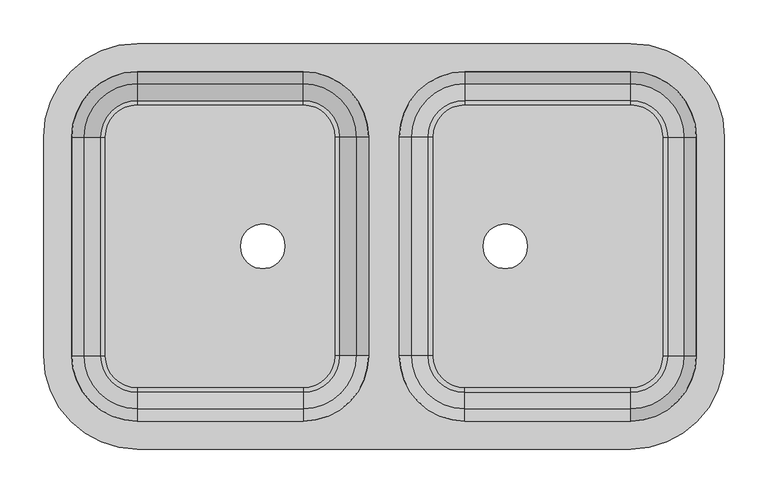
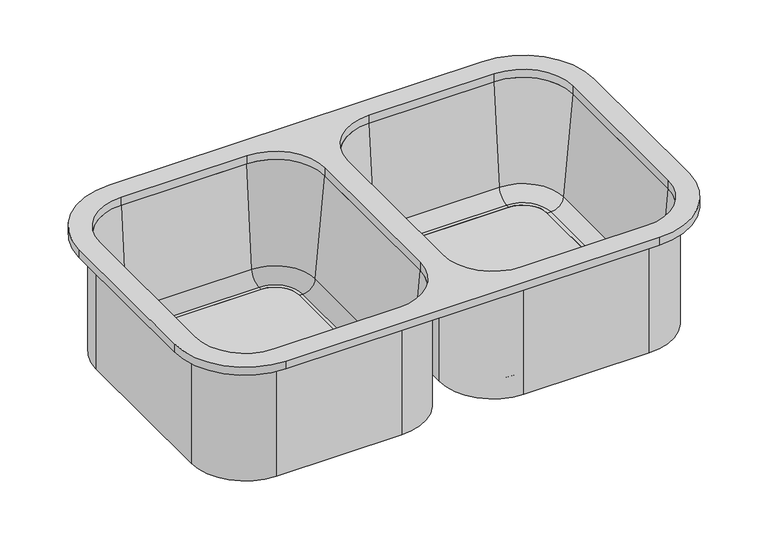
"""IFC4 building model written with IfcOpenShell, lengths in millimetres: flow terminal geometry, Tarja Teka subm BE 780 : TARJA PARA COCINA."""

from ifc_helpers import new_model, si_unit, point, frame, frame_2d, origin, place, context, project, spatial, polyline, circle_curve, ellipse_curve, trimmed, segment, composite_curve, outline, extrude, source, transform, mapped, element, save
from ifc_brep_helpers import plane_surface, cylinder_surface, revolved_surface, advanced_brep


def flow_terminal_dbe0ad42(model_context):
    return source(origin(), model_context, "Body", "SolidModel", [
        extrude(outline(composite_curve([segment(trimmed(circle_curve(frame_2d((338.6892406, 145.3454011)), 107.0), [point((338.6892406, 252.3454011))], [point((445.6892406, 145.3454011))], False, "CARTESIAN"), True, "CONTINUOUS"), segment(polyline([(445.6892406, 145.3454011), (445.6892406, -104.6545989)]), True, "CONTINUOUS"), segment(trimmed(circle_curve(frame_2d((338.6892406, -104.6545989)), 107.0), [point((445.6892406, -104.6545989))], [point((338.6892406, -211.6545989))], False, "CARTESIAN"), True, "CONTINUOUS"), segment(polyline([(338.6892406, -211.6545989), (-226.3107594, -211.6545989)]), True, "CONTINUOUS"), segment(trimmed(circle_curve(frame_2d((-226.3107594, -104.6545989)), 107.0), [point((-226.3107594, -211.6545989))], [point((-333.3107594, -104.6545989))], False, "CARTESIAN"), True, "CONTINUOUS"), segment(polyline([(-333.3107594, -104.6545989), (-333.3107594, 145.3454011)]), True, "CONTINUOUS"), segment(trimmed(circle_curve(frame_2d((-226.3107594, 145.3454011)), 107.0), [point((-333.3107594, 145.3454011))], [point((-226.3107594, 252.3454011))], False, "CARTESIAN"), True, "CONTINUOUS"), segment(polyline([(-226.3107594, 252.3454011), (338.6892406, 252.3454011)]), True, "CONTINUOUS")], self_intersect=False), holes=[composite_curve([segment(polyline([(338.6892406, 220.3454011), (148.6892406, 220.3454011)]), True, "CONTINUOUS"), segment(trimmed(circle_curve(frame_2d((148.6892406, 145.3454011)), 75.0), [point((148.6892406, 220.3454011))], [point((73.6892406, 145.3454011))], True, "CARTESIAN"), True, "CONTINUOUS"), segment(polyline([(73.6892406, 145.3454011), (73.6892406, -104.6545989)]), True, "CONTINUOUS"), segment(trimmed(circle_curve(frame_2d((148.6892406, -104.6545989)), 75.0), [point((73.6892406, -104.6545989))], [point((148.6892406, -179.6545989))], True, "CARTESIAN"), True, "CONTINUOUS"), segment(polyline([(148.6892406, -179.6545989), (338.6892406, -179.6545989)]), True, "CONTINUOUS"), segment(trimmed(circle_curve(frame_2d((338.6892406, -104.6545989)), 75.0), [point((338.6892406, -179.6545989))], [point((413.6892406, -104.6545989))], True, "CARTESIAN"), True, "CONTINUOUS"), segment(polyline([(413.6892406, -104.6545989), (413.6892406, 145.3454011)]), True, "CONTINUOUS"), segment(trimmed(circle_curve(frame_2d((338.6892406, 145.3454011)), 75.0), [point((413.6892406, 145.3454011))], [point((338.6892406, 220.3454011))], True, "CARTESIAN"), True, "CONTINUOUS")], self_intersect=False), composite_curve([segment(trimmed(circle_curve(frame_2d((-226.3107594, 145.3454011)), 75.0), [point((-226.3107594, 220.3454011))], [point((-301.3107594, 145.3454011))], True, "CARTESIAN"), True, "CONTINUOUS"), segment(polyline([(-301.3107594, 145.3454011), (-301.3107594, -104.6545989)]), True, "CONTINUOUS"), segment(trimmed(circle_curve(frame_2d((-226.3107594, -104.6545989)), 75.0), [point((-301.3107594, -104.6545989))], [point((-226.3107594, -179.6545989))], True, "CARTESIAN"), True, "CONTINUOUS"), segment(polyline([(-226.3107594, -179.6545989), (-36.3107594, -179.6545989)]), True, "CONTINUOUS"), segment(trimmed(circle_curve(frame_2d((-36.3107594, -104.6545989)), 75.0), [point((-36.3107594, -179.6545989))], [point((38.6892406, -104.6545989))], True, "CARTESIAN"), True, "CONTINUOUS"), segment(polyline([(38.6892406, -104.6545989), (38.6892406, 145.3454011)]), True, "CONTINUOUS"), segment(trimmed(circle_curve(frame_2d((-36.3107594, 145.3454011)), 75.0), [point((38.6892406, 145.3454011))], [point((-36.3107594, 220.3454011))], True, "CARTESIAN"), True, "CONTINUOUS"), segment(polyline([(-36.3107594, 220.3454011), (-226.3107594, 220.3454011)]), True, "CONTINUOUS")], self_intersect=False)]), frame((0.0, 0.0, 914.4), z_axis=(0.0, 0.0, 1.0), x_axis=(1.0, 0.0, 0.0)), (0.0, 0.0, 1.0), 12.7),
        advanced_brep(
        [(-301.3107594, 145.3454011, 914.4), (-226.3107594, 220.3454011, 914.4), (-226.3107594, 226.6954011, 914.4), (-307.6607594, 145.3454011, 914.4), (-287.2788624, 145.3454011, 754.0146831), (-226.3107594, 206.3135041, 754.0146831), (-268.3013534, 145.3454011, 736.625), (-226.3107594, 187.3359951, 736.625), (-263.2107594, 145.3454011, 736.625), (-226.3107594, 182.2454011, 736.625), (-263.2107594, 145.3454011, 727.1), (-226.3107594, 182.2454011, 727.1), (-307.6607594, 145.3454011, 727.1), (-226.3107594, 226.6954011, 727.1), (-307.6607594, -104.6545989, 914.4), (-301.3107594, -104.6545989, 914.4), (-287.2788624, -104.6545989, 754.0146831), (-268.3013534, -104.6545989, 736.625), (-263.2107594, -104.6545989, 736.625), (-263.2107594, -104.6545989, 727.1), (-307.6607594, -104.6545989, 727.1), (-226.3107594, -179.6545989, 914.4), (-226.3107594, -186.0045989, 914.4), (-226.3107594, -165.6227019, 754.0146831), (-226.3107594, -146.6451929, 736.625), (-226.3107594, -141.5545989, 736.625), (-226.3107594, -141.5545989, 727.1), (-226.3107594, -186.0045989, 727.1), (-36.3107594, -186.0045989, 914.4), (-36.3107594, -179.6545989, 914.4), (-36.3107594, -165.6227019, 754.0146831), (-36.3107594, -146.6451929, 736.625), (-36.3107594, -141.5545989, 736.625), (-36.3107594, -141.5545989, 727.1), (-36.3107594, -186.0045989, 727.1), (38.6892406, -104.6545989, 914.4), (45.0392406, -104.6545989, 914.4), (24.6573435, -104.6545989, 754.0146831), (5.6798345, -104.6545989, 736.625), (0.5892406, -104.6545989, 736.625), (0.5892406, -104.6545989, 727.1), (45.0392406, -104.6545989, 727.1), (45.0392406, 145.3454011, 914.4), (38.6892406, 145.3454011, 914.4), (24.6573435, 145.3454011, 754.0146831), (5.6798345, 145.3454011, 736.625), (0.5892406, 145.3454011, 736.625), (0.5892406, 145.3454011, 727.1), (45.0392406, 145.3454011, 727.1), (-36.3107594, 220.3454011, 914.4), (-36.3107594, 226.6954011, 914.4), (-36.3107594, 206.3135041, 754.0146831), (-36.3107594, 187.3359951, 736.625), (-36.3107594, 182.2454011, 736.625), (-36.3107594, 182.2454011, 727.1), (-36.3107594, 226.6954011, 727.1)],
        [
            (0, 1, circle_curve(frame((-226.3107594, 145.3454011, 914.4), z_axis=(0.0, 0.0, -1.0), x_axis=(0.0, 1.0, 0.0)), 75.0)),
            (1, 2),
            (2, 3, circle_curve(frame((-226.3107594, 145.3454011, 914.4), z_axis=(0.0, 0.0, 1.0), x_axis=(0.0, 1.0, 0.0)), 81.35)),
            (3, 0),
            (4, 5, circle_curve(frame((-226.3107594, 145.3454011, 754.0146831), z_axis=(0.0, 0.0, -1.0), x_axis=(0.0, 1.0, 0.0)), 60.968103)),
            (5, 1),
            (0, 4),
            (6, 7, circle_curve(frame((-226.3107594, 145.3454011, 736.625), z_axis=(0.0, 0.0, -1.0), x_axis=(0.0, 1.0, 0.0)), 41.990594)),
            (7, 5, circle_curve(frame((-226.3107594, 187.3359951, 755.675), z_axis=(1.0, 0.0, 0.0), x_axis=(0.0, -1.0, 0.0)), 19.05)),
            (4, 6, circle_curve(frame((-268.3013534, 145.3454011, 755.675), z_axis=(0.0, -1.0, 0.0), x_axis=(1.0, 0.0, 0.0)), 19.05)),
            (8, 9, circle_curve(frame((-226.3107594, 145.3454011, 736.625), z_axis=(0.0, 0.0, -1.0), x_axis=(0.0, 1.0, 0.0)), 36.9)),
            (9, 7),
            (6, 8),
            (10, 11, circle_curve(frame((-226.3107594, 145.3454011, 727.1), z_axis=(0.0, 0.0, -1.0), x_axis=(0.0, 1.0, 0.0)), 36.9)),
            (11, 9),
            (8, 10),
            (12, 13, circle_curve(frame((-226.3107594, 145.3454011, 727.1), z_axis=(0.0, 0.0, -1.0), x_axis=(0.0, 1.0, 0.0)), 81.35)),
            (13, 11),
            (10, 12),
            (2, 13),
            (12, 3),
            (3, 14),
            (14, 15),
            (15, 0),
            (15, 16),
            (16, 4),
            (16, 17, circle_curve(frame((-268.3013534, -104.6545989, 755.675), z_axis=(0.0, -1.0, 0.0), x_axis=(1.0, 0.0, 0.0)), 19.05)),
            (17, 6),
            (17, 18),
            (18, 8),
            (18, 19),
            (19, 10),
            (19, 20),
            (20, 12),
            (20, 14),
            (21, 15, circle_curve(frame((-226.3107594, -104.6545989, 914.4), z_axis=(0.0, 0.0, -1.0), x_axis=(-1.0, 0.0, 0.0)), 75.0)),
            (14, 22, circle_curve(frame((-226.3107594, -104.6545989, 914.4), z_axis=(0.0, 0.0, 1.0), x_axis=(-1.0, 0.0, 0.0)), 81.35)),
            (22, 21),
            (23, 16, circle_curve(frame((-226.3107594, -104.6545989, 754.0146831), z_axis=(0.0, 0.0, -1.0), x_axis=(-1.0, 0.0, 0.0)), 60.968103)),
            (21, 23),
            (24, 17, circle_curve(frame((-226.3107594, -104.6545989, 736.625), z_axis=(0.0, 0.0, -1.0), x_axis=(-1.0, 0.0, 0.0)), 41.990594)),
            (23, 24, circle_curve(frame((-226.3107594, -146.6451929, 755.675), z_axis=(1.0, 0.0, 0.0), x_axis=(0.0, 1.0, 0.0)), 19.05)),
            (25, 18, circle_curve(frame((-226.3107594, -104.6545989, 736.625), z_axis=(0.0, 0.0, -1.0), x_axis=(-1.0, 0.0, 0.0)), 36.9)),
            (24, 25),
            (26, 19, circle_curve(frame((-226.3107594, -104.6545989, 727.1), z_axis=(0.0, 0.0, -1.0), x_axis=(-1.0, 0.0, 0.0)), 36.9)),
            (25, 26),
            (27, 20, circle_curve(frame((-226.3107594, -104.6545989, 727.1), z_axis=(0.0, 0.0, -1.0), x_axis=(-1.0, 0.0, 0.0)), 81.35)),
            (26, 27),
            (27, 22),
            (22, 28),
            (28, 29),
            (29, 21),
            (29, 30),
            (30, 23),
            (30, 31, circle_curve(frame((-36.3107594, -146.6451929, 755.675), z_axis=(1.0, 0.0, 0.0), x_axis=(0.0, 1.0, 0.0)), 19.05)),
            (31, 24),
            (31, 32),
            (32, 25),
            (32, 33),
            (33, 26),
            (33, 34),
            (34, 27),
            (34, 28),
            (35, 29, circle_curve(frame((-36.3107594, -104.6545989, 914.4), z_axis=(0.0, 0.0, -1.0), x_axis=(0.0, -1.0, 0.0)), 75.0)),
            (28, 36, circle_curve(frame((-36.3107594, -104.6545989, 914.4), z_axis=(0.0, 0.0, 1.0), x_axis=(0.0, -1.0, 0.0)), 81.35)),
            (36, 35),
            (37, 30, circle_curve(frame((-36.3107594, -104.6545989, 754.0146831), z_axis=(0.0, 0.0, -1.0), x_axis=(0.0, -1.0, 0.0)), 60.968103)),
            (35, 37),
            (38, 31, circle_curve(frame((-36.3107594, -104.6545989, 736.625), z_axis=(0.0, 0.0, -1.0), x_axis=(0.0, -1.0, 0.0)), 41.990594)),
            (37, 38, circle_curve(frame((5.6798345, -104.6545989, 755.675), z_axis=(0.0, 1.0, 0.0), x_axis=(-1.0, 0.0, 0.0)), 19.05)),
            (39, 32, circle_curve(frame((-36.3107594, -104.6545989, 736.625), z_axis=(0.0, 0.0, -1.0), x_axis=(0.0, -1.0, 0.0)), 36.9)),
            (38, 39),
            (40, 33, circle_curve(frame((-36.3107594, -104.6545989, 727.1), z_axis=(0.0, 0.0, -1.0), x_axis=(0.0, -1.0, 0.0)), 36.9)),
            (39, 40),
            (41, 34, circle_curve(frame((-36.3107594, -104.6545989, 727.1), z_axis=(0.0, 0.0, -1.0), x_axis=(0.0, -1.0, 0.0)), 81.35)),
            (40, 41),
            (41, 36),
            (36, 42),
            (42, 43),
            (43, 35),
            (43, 44),
            (44, 37),
            (44, 45, circle_curve(frame((5.6798345, 145.3454011, 755.675), z_axis=(0.0, 1.0, 0.0), x_axis=(-1.0, 0.0, 0.0)), 19.05)),
            (45, 38),
            (45, 46),
            (46, 39),
            (46, 47),
            (47, 40),
            (47, 48),
            (48, 41),
            (48, 42),
            (49, 43, circle_curve(frame((-36.3107594, 145.3454011, 914.4), z_axis=(0.0, 0.0, -1.0), x_axis=(1.0, 0.0, 0.0)), 75.0)),
            (42, 50, circle_curve(frame((-36.3107594, 145.3454011, 914.4), z_axis=(0.0, 0.0, 1.0), x_axis=(1.0, 0.0, 0.0)), 81.35)),
            (50, 49),
            (51, 44, circle_curve(frame((-36.3107594, 145.3454011, 754.0146831), z_axis=(0.0, 0.0, -1.0), x_axis=(1.0, 0.0, 0.0)), 60.968103)),
            (49, 51),
            (52, 45, circle_curve(frame((-36.3107594, 145.3454011, 736.625), z_axis=(0.0, 0.0, -1.0), x_axis=(1.0, 0.0, 0.0)), 41.990594)),
            (51, 52, circle_curve(frame((-36.3107594, 187.3359951, 755.675), z_axis=(-1.0, 0.0, 0.0), x_axis=(0.0, -1.0, 0.0)), 19.05)),
            (53, 46, circle_curve(frame((-36.3107594, 145.3454011, 736.625), z_axis=(0.0, 0.0, -1.0), x_axis=(1.0, 0.0, 0.0)), 36.9)),
            (52, 53),
            (54, 47, circle_curve(frame((-36.3107594, 145.3454011, 727.1), z_axis=(0.0, 0.0, -1.0), x_axis=(1.0, 0.0, 0.0)), 36.9)),
            (53, 54),
            (55, 48, circle_curve(frame((-36.3107594, 145.3454011, 727.1), z_axis=(0.0, 0.0, -1.0), x_axis=(1.0, 0.0, 0.0)), 81.35)),
            (54, 55),
            (55, 50),
            (50, 2),
            (1, 49),
            (5, 51),
            (7, 52),
            (9, 53),
            (11, 54),
            (13, 55),
        ],
        [
            plane_surface(frame((-226.3107594, 145.3454011, 914.4), z_axis=(0.0, 0.0, 1.0), x_axis=(0.0, 1.0, 0.0))),
            revolved_surface(polyline([(-226.3107594, 220.3454011, 914.4), (-226.3107594, 206.3135041, 754.0146831)]), (-226.3107594, 145.3454011, 0.0), (0.0, 0.0, 1.0)),
            revolved_surface(trimmed(ellipse_curve(frame((-226.3107594, 187.3359951, 755.675), z_axis=(-1.0, 0.0, 0.0), x_axis=(0.0, -1.0, 0.0)), 19.05, 19.05), [point((-226.3107594, 206.3135041, 754.0146831))], [point((-226.3107594, 187.3359951, 736.625))], True, "CARTESIAN"), (-226.3107594, 145.3454011, 0.0), (0.0, 0.0, 1.0)),
            plane_surface(frame((-226.3107594, 145.3454011, 736.625), z_axis=(0.0, 0.0, 1.0), x_axis=(0.0, 1.0, 0.0))),
            revolved_surface(polyline([(-226.3107594, 182.2454011, 736.625), (-226.3107594, 182.2454011, 727.1)]), (-226.3107594, 145.3454011, 0.0), (0.0, 0.0, 1.0)),
            plane_surface(frame((-226.3107594, 145.3454011, 727.1), z_axis=(0.0, 0.0, -1.0), x_axis=(0.0, 1.0, 0.0))),
            cylinder_surface(frame((-226.3107594, 145.3454011, 0.0), z_axis=(0.0, 0.0, 1.0), x_axis=(0.0, 1.0, 0.0)), 81.35),
            plane_surface(frame((-307.6607594, 145.3454011, 914.4), z_axis=(0.0, 0.0, 1.0), x_axis=(0.0, -1.0, 0.0))),
            plane_surface(frame((-301.3107594, 145.3454011, 914.4), z_axis=(0.996194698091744, 0.0, 0.08715574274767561), x_axis=(0.0, -1.0, 0.0))),
            revolved_surface(polyline([(-249.25135339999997, -104.6545989, 755.675), (-249.25135339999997, 145.3454011, 755.675)]), (-268.3013534, 145.3454011, 755.675), (0.0, -1.0, 0.0)),
            plane_surface(frame((-268.3013534, 145.3454011, 736.625), z_axis=(0.0, 0.0, 1.0), x_axis=(0.0, -1.0, 0.0))),
            plane_surface(frame((-263.2107594, 145.3454011, 736.625), z_axis=(1.0, 0.0, 0.0), x_axis=(0.0, -1.0, 0.0))),
            plane_surface(frame((-263.2107594, 145.3454011, 727.1), z_axis=(0.0, 0.0, -1.0), x_axis=(0.0, -1.0, 0.0))),
            plane_surface(frame((-307.6607594, 145.3454011, 727.1), z_axis=(-1.0, 0.0, 0.0), x_axis=(0.0, -1.0, 0.0))),
            plane_surface(frame((-226.3107594, -104.6545989, 914.4), z_axis=(0.0, 0.0, 1.0), x_axis=(-1.0, 0.0, 0.0))),
            revolved_surface(polyline([(-301.3107594, -104.6545989, 914.4), (-287.2788624, -104.6545989, 754.0146831)]), (-226.3107594, -104.6545989, 0.0), (0.0, 0.0, 1.0)),
            revolved_surface(trimmed(ellipse_curve(frame((-268.3013534, -104.6545989, 755.675), z_axis=(0.0, -1.0, 0.0), x_axis=(1.0, 0.0, 0.0)), 19.05, 19.05), [point((-287.2788624, -104.6545989, 754.0146831))], [point((-268.3013534, -104.6545989, 736.625))], True, "CARTESIAN"), (-226.3107594, -104.6545989, 0.0), (0.0, 0.0, 1.0)),
            plane_surface(frame((-226.3107594, -104.6545989, 736.625), z_axis=(0.0, 0.0, 1.0), x_axis=(-1.0, 0.0, 0.0))),
            revolved_surface(polyline([(-263.2107594, -104.6545989, 736.625), (-263.2107594, -104.6545989, 727.1)]), (-226.3107594, -104.6545989, 0.0), (0.0, 0.0, 1.0)),
            plane_surface(frame((-226.3107594, -104.6545989, 727.1), z_axis=(0.0, 0.0, -1.0), x_axis=(-1.0, 0.0, 0.0))),
            cylinder_surface(frame((-226.3107594, -104.6545989, 0.0), z_axis=(0.0, 0.0, 1.0), x_axis=(-1.0, 0.0, 0.0)), 81.35),
            plane_surface(frame((-226.3107594, -186.0045989, 914.4), z_axis=(0.0, 0.0, 1.0), x_axis=(1.0, 0.0, 0.0))),
            plane_surface(frame((-226.3107594, -179.6545989, 914.4), z_axis=(0.0, 0.996194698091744, 0.08715574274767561), x_axis=(1.0, 0.0, 0.0))),
            revolved_surface(polyline([(-36.310759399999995, -127.59519290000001, 755.675), (-226.3107594, -127.59519290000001, 755.675)]), (-226.3107594, -146.6451929, 755.675), (1.0, 0.0, 0.0)),
            plane_surface(frame((-226.3107594, -146.6451929, 736.625), z_axis=(0.0, 0.0, 1.0), x_axis=(1.0, 0.0, 0.0))),
            plane_surface(frame((-226.3107594, -141.5545989, 736.625), z_axis=(0.0, 1.0, 0.0), x_axis=(1.0, 0.0, 0.0))),
            plane_surface(frame((-226.3107594, -141.5545989, 727.1), z_axis=(0.0, 0.0, -1.0), x_axis=(1.0, 0.0, 0.0))),
            plane_surface(frame((-226.3107594, -186.0045989, 727.1), z_axis=(0.0, -1.0, 0.0), x_axis=(1.0, 0.0, 0.0))),
            plane_surface(frame((-36.3107594, -104.6545989, 914.4), z_axis=(0.0, 0.0, 1.0), x_axis=(0.0, -1.0, 0.0))),
            revolved_surface(polyline([(-36.3107594, -179.6545989, 914.4), (-36.3107594, -165.6227019, 754.0146831)]), (-36.3107594, -104.6545989, 0.0), (0.0, 0.0, 1.0)),
            revolved_surface(trimmed(ellipse_curve(frame((-36.3107594, -146.6451929, 755.675), z_axis=(1.0, 0.0, 0.0), x_axis=(0.0, 1.0, 0.0)), 19.05, 19.05), [point((-36.3107594, -165.6227019, 754.0146831))], [point((-36.3107594, -146.6451929, 736.625))], True, "CARTESIAN"), (-36.3107594, -104.6545989, 0.0), (0.0, 0.0, 1.0)),
            plane_surface(frame((-36.3107594, -104.6545989, 736.625), z_axis=(0.0, 0.0, 1.0), x_axis=(0.0, -1.0, 0.0))),
            revolved_surface(polyline([(-36.3107594, -141.5545989, 736.625), (-36.3107594, -141.5545989, 727.1)]), (-36.3107594, -104.6545989, 0.0), (0.0, 0.0, 1.0)),
            plane_surface(frame((-36.3107594, -104.6545989, 727.1), z_axis=(0.0, 0.0, -1.0), x_axis=(0.0, -1.0, 0.0))),
            cylinder_surface(frame((-36.3107594, -104.6545989, 0.0), z_axis=(0.0, 0.0, 1.0), x_axis=(0.0, -1.0, 0.0)), 81.35),
            plane_surface(frame((45.0392406, -104.6545989, 914.4), z_axis=(0.0, 0.0, 1.0), x_axis=(0.0, 1.0, 0.0))),
            plane_surface(frame((38.6892406, -104.6545989, 914.4), z_axis=(-0.996194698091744, 0.0, 0.08715574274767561), x_axis=(0.0, 1.0, 0.0))),
            revolved_surface(polyline([(-13.3701655, 145.3454011, 755.675), (-13.3701655, -104.6545989, 755.675)]), (5.6798345, -104.6545989, 755.675), (0.0, 1.0, 0.0)),
            plane_surface(frame((5.6798345, -104.6545989, 736.625), z_axis=(0.0, 0.0, 1.0), x_axis=(0.0, 1.0, 0.0))),
            plane_surface(frame((0.5892406, -104.6545989, 736.625), z_axis=(-1.0, 0.0, 0.0), x_axis=(0.0, 1.0, 0.0))),
            plane_surface(frame((0.5892406, -104.6545989, 727.1), z_axis=(0.0, 0.0, -1.0), x_axis=(0.0, 1.0, 0.0))),
            plane_surface(frame((45.0392406, -104.6545989, 727.1), z_axis=(1.0, 0.0, 0.0), x_axis=(0.0, 1.0, 0.0))),
            plane_surface(frame((-36.3107594, 145.3454011, 914.4), z_axis=(0.0, 0.0, 1.0), x_axis=(1.0, 0.0, 0.0))),
            revolved_surface(polyline([(38.6892406, 145.3454011, 914.4), (24.6573435, 145.3454011, 754.0146831)]), (-36.3107594, 145.3454011, 0.0), (0.0, 0.0, 1.0)),
            revolved_surface(trimmed(ellipse_curve(frame((5.6798345, 145.3454011, 755.675), z_axis=(0.0, 1.0, 0.0), x_axis=(-1.0, 0.0, 0.0)), 19.05, 19.05), [point((24.6573435, 145.3454011, 754.0146831))], [point((5.6798345, 145.3454011, 736.625))], True, "CARTESIAN"), (-36.3107594, 145.3454011, 0.0), (0.0, 0.0, 1.0)),
            plane_surface(frame((-36.3107594, 145.3454011, 736.625), z_axis=(0.0, 0.0, 1.0), x_axis=(1.0, 0.0, 0.0))),
            revolved_surface(polyline([(0.5892405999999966, 145.3454011, 736.625), (0.5892405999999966, 145.3454011, 727.1)]), (-36.3107594, 145.3454011, 0.0), (0.0, 0.0, 1.0)),
            plane_surface(frame((-36.3107594, 145.3454011, 727.1), z_axis=(0.0, 0.0, -1.0), x_axis=(1.0, 0.0, 0.0))),
            cylinder_surface(frame((-36.3107594, 145.3454011, 0.0), z_axis=(0.0, 0.0, 1.0), x_axis=(1.0, 0.0, 0.0)), 81.35),
            plane_surface(frame((-36.3107594, 226.6954011, 914.4), z_axis=(0.0, 0.0, 1.0), x_axis=(-1.0, 0.0, 0.0))),
            plane_surface(frame((-36.3107594, 220.3454011, 914.4), z_axis=(0.0, -0.996194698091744, 0.08715574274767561), x_axis=(-1.0, 0.0, 0.0))),
            revolved_surface(polyline([(-226.3107594, 168.28599509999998, 755.675), (-36.3107594, 168.28599509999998, 755.675)]), (-36.3107594, 187.3359951, 755.675), (-1.0, 0.0, 0.0)),
            plane_surface(frame((-36.3107594, 187.3359951, 736.625), z_axis=(0.0, 0.0, 1.0), x_axis=(-1.0, 0.0, 0.0))),
            plane_surface(frame((-36.3107594, 182.2454011, 736.625), z_axis=(0.0, -1.0, 0.0), x_axis=(-1.0, 0.0, 0.0))),
            plane_surface(frame((-36.3107594, 182.2454011, 727.1), z_axis=(0.0, 0.0, -1.0), x_axis=(-1.0, 0.0, 0.0))),
            plane_surface(frame((-36.3107594, 226.6954011, 727.1), z_axis=(0.0, 1.0, 0.0), x_axis=(-1.0, 0.0, 0.0))),
        ],
        [
            (0, [[1, 2, 3, 4]]),
            (1, [[5, 6, -1, 7]]),
            (2, [[8, 9, -5, 10]]),
            (3, [[11, 12, -8, 13]]),
            (4, [[14, 15, -11, 16]]),
            (5, [[17, 18, -14, 19]]),
            (6, [[-3, 20, -17, 21]]),
            (7, [[-4, 22, 23, 24]]),
            (8, [[-7, -24, 25, 26]]),
            (9, [[-10, -26, 27, 28]]),
            (10, [[-13, -28, 29, 30]]),
            (11, [[-16, -30, 31, 32]]),
            (12, [[-19, -32, 33, 34]]),
            (13, [[-21, -34, 35, -22]]),
            (14, [[36, -23, 37, 38]]),
            (15, [[39, -25, -36, 40]]),
            (16, [[41, -27, -39, 42]]),
            (17, [[43, -29, -41, 44]]),
            (18, [[45, -31, -43, 46]]),
            (19, [[47, -33, -45, 48]]),
            (20, [[-37, -35, -47, 49]]),
            (21, [[-38, 50, 51, 52]]),
            (22, [[-40, -52, 53, 54]]),
            (23, [[-42, -54, 55, 56]]),
            (24, [[-44, -56, 57, 58]]),
            (25, [[-46, -58, 59, 60]]),
            (26, [[-48, -60, 61, 62]]),
            (27, [[-49, -62, 63, -50]]),
            (28, [[64, -51, 65, 66]]),
            (29, [[67, -53, -64, 68]]),
            (30, [[69, -55, -67, 70]]),
            (31, [[71, -57, -69, 72]]),
            (32, [[73, -59, -71, 74]]),
            (33, [[75, -61, -73, 76]]),
            (34, [[-65, -63, -75, 77]]),
            (35, [[-66, 78, 79, 80]]),
            (36, [[-68, -80, 81, 82]]),
            (37, [[-70, -82, 83, 84]]),
            (38, [[-72, -84, 85, 86]]),
            (39, [[-74, -86, 87, 88]]),
            (40, [[-76, -88, 89, 90]]),
            (41, [[-77, -90, 91, -78]]),
            (42, [[92, -79, 93, 94]]),
            (43, [[95, -81, -92, 96]]),
            (44, [[97, -83, -95, 98]]),
            (45, [[99, -85, -97, 100]]),
            (46, [[101, -87, -99, 102]]),
            (47, [[103, -89, -101, 104]]),
            (48, [[-93, -91, -103, 105]]),
            (49, [[-94, 106, -2, 107]]),
            (50, [[-96, -107, -6, 108]]),
            (51, [[-98, -108, -9, 109]]),
            (52, [[-100, -109, -12, 110]]),
            (53, [[-102, -110, -15, 111]]),
            (54, [[-104, -111, -18, 112]]),
            (55, [[-105, -112, -20, -106]]),
        ],
    ),
        advanced_brep(
        [(420.0392406, 145.3454011, 727.1), (338.6892406, 226.6954011, 727.1), (338.6892406, 226.6954011, 914.4), (420.0392406, 145.3454011, 914.4), (375.5892406, 145.3454011, 727.1), (338.6892406, 182.2454011, 727.1), (375.5892406, 145.3454011, 736.625), (338.6892406, 182.2454011, 736.625), (380.6798345, 145.3454011, 736.625), (338.6892406, 187.3359951, 736.625), (399.6573435, 145.3454011, 754.0146831), (338.6892406, 206.3135041, 754.0146831), (413.6892406, 145.3454011, 914.4), (338.6892406, 220.3454011, 914.4), (420.0392406, -104.6545989, 914.4), (420.0392406, -104.6545989, 727.1), (375.5892406, -104.6545989, 727.1), (375.5892406, -104.6545989, 736.625), (380.6798345, -104.6545989, 736.625), (399.6573435, -104.6545989, 754.0146831), (413.6892406, -104.6545989, 914.4), (338.6892406, -186.0045989, 727.1), (338.6892406, -186.0045989, 914.4), (338.6892406, -141.5545989, 727.1), (338.6892406, -141.5545989, 736.625), (338.6892406, -146.6451929, 736.625), (338.6892406, -165.6227019, 754.0146831), (338.6892406, -179.6545989, 914.4), (148.6892406, -186.0045989, 914.4), (148.6892406, -186.0045989, 727.1), (148.6892406, -141.5545989, 727.1), (148.6892406, -141.5545989, 736.625), (148.6892406, -146.6451929, 736.625), (148.6892406, -165.6227019, 754.0146831), (148.6892406, -179.6545989, 914.4), (67.3392406, -104.6545989, 727.1), (67.3392406, -104.6545989, 914.4), (111.7892406, -104.6545989, 727.1), (111.7892406, -104.6545989, 736.625), (106.6986466, -104.6545989, 736.625), (87.7211376, -104.6545989, 754.0146831), (73.6892406, -104.6545989, 914.4), (67.3392406, 145.3454011, 914.4), (67.3392406, 145.3454011, 727.1), (111.7892406, 145.3454011, 727.1), (111.7892406, 145.3454011, 736.625), (106.6986466, 145.3454011, 736.625), (87.7211376, 145.3454011, 754.0146831), (73.6892406, 145.3454011, 914.4), (148.6892406, 226.6954011, 727.1), (148.6892406, 226.6954011, 914.4), (148.6892406, 182.2454011, 727.1), (148.6892406, 182.2454011, 736.625), (148.6892406, 187.3359951, 736.625), (148.6892406, 206.3135041, 754.0146831), (148.6892406, 220.3454011, 914.4)],
        [
            (0, 1, circle_curve(frame((338.6892406, 145.3454011, 727.1), z_axis=(0.0, 0.0, 1.0), x_axis=(0.0, 1.0, 0.0)), 81.35)),
            (1, 2),
            (2, 3, circle_curve(frame((338.6892406, 145.3454011, 914.4), z_axis=(0.0, 0.0, -1.0), x_axis=(0.0, 1.0, 0.0)), 81.35)),
            (3, 0),
            (4, 5, circle_curve(frame((338.6892406, 145.3454011, 727.1), z_axis=(0.0, 0.0, 1.0), x_axis=(0.0, 1.0, 0.0)), 36.9)),
            (5, 1),
            (0, 4),
            (6, 7, circle_curve(frame((338.6892406, 145.3454011, 736.625), z_axis=(0.0, 0.0, 1.0), x_axis=(0.0, 1.0, 0.0)), 36.9)),
            (7, 5),
            (4, 6),
            (8, 9, circle_curve(frame((338.6892406, 145.3454011, 736.625), z_axis=(0.0, 0.0, 1.0), x_axis=(0.0, 1.0, 0.0)), 41.990594)),
            (9, 7),
            (6, 8),
            (10, 11, circle_curve(frame((338.6892406, 145.3454011, 754.0146831), z_axis=(0.0, 0.0, 1.0), x_axis=(0.0, 1.0, 0.0)), 60.968103)),
            (11, 9, circle_curve(frame((338.6892406, 187.3359951, 755.675), z_axis=(-1.0, 0.0, 0.0), x_axis=(0.0, 1.0, 0.0)), 19.05)),
            (8, 10, circle_curve(frame((380.6798345, 145.3454011, 755.675), z_axis=(0.0, -1.0, 0.0), x_axis=(1.0, 0.0, 0.0)), 19.05)),
            (12, 13, circle_curve(frame((338.6892406, 145.3454011, 914.4), z_axis=(0.0, 0.0, 1.0), x_axis=(0.0, 1.0, 0.0)), 75.0)),
            (13, 11),
            (10, 12),
            (2, 13),
            (12, 3),
            (3, 14),
            (14, 15),
            (15, 0),
            (15, 16),
            (16, 4),
            (16, 17),
            (17, 6),
            (17, 18),
            (18, 8),
            (18, 19, circle_curve(frame((380.6798345, -104.6545989, 755.675), z_axis=(0.0, -1.0, 0.0), x_axis=(1.0, 0.0, 0.0)), 19.05)),
            (19, 10),
            (19, 20),
            (20, 12),
            (20, 14),
            (21, 15, circle_curve(frame((338.6892406, -104.6545989, 727.1), z_axis=(0.0, 0.0, 1.0), x_axis=(1.0, 0.0, 0.0)), 81.35)),
            (14, 22, circle_curve(frame((338.6892406, -104.6545989, 914.4), z_axis=(0.0, 0.0, -1.0), x_axis=(1.0, 0.0, 0.0)), 81.35)),
            (22, 21),
            (23, 16, circle_curve(frame((338.6892406, -104.6545989, 727.1), z_axis=(0.0, 0.0, 1.0), x_axis=(1.0, 0.0, 0.0)), 36.9)),
            (21, 23),
            (24, 17, circle_curve(frame((338.6892406, -104.6545989, 736.625), z_axis=(0.0, 0.0, 1.0), x_axis=(1.0, 0.0, 0.0)), 36.9)),
            (23, 24),
            (25, 18, circle_curve(frame((338.6892406, -104.6545989, 736.625), z_axis=(0.0, 0.0, 1.0), x_axis=(1.0, 0.0, 0.0)), 41.990594)),
            (24, 25),
            (26, 19, circle_curve(frame((338.6892406, -104.6545989, 754.0146831), z_axis=(0.0, 0.0, 1.0), x_axis=(1.0, 0.0, 0.0)), 60.968103)),
            (25, 26, circle_curve(frame((338.6892406, -146.6451929, 755.675), z_axis=(-1.0, 0.0, 0.0), x_axis=(0.0, -1.0, 0.0)), 19.05)),
            (27, 20, circle_curve(frame((338.6892406, -104.6545989, 914.4), z_axis=(0.0, 0.0, 1.0), x_axis=(1.0, 0.0, 0.0)), 75.0)),
            (26, 27),
            (27, 22),
            (22, 28),
            (28, 29),
            (29, 21),
            (29, 30),
            (30, 23),
            (30, 31),
            (31, 24),
            (31, 32),
            (32, 25),
            (32, 33, circle_curve(frame((148.6892406, -146.6451929, 755.675), z_axis=(-1.0, 0.0, 0.0), x_axis=(0.0, -1.0, 0.0)), 19.05)),
            (33, 26),
            (33, 34),
            (34, 27),
            (34, 28),
            (35, 29, circle_curve(frame((148.6892406, -104.6545989, 727.1), z_axis=(0.0, 0.0, 1.0), x_axis=(0.0, -1.0, 0.0)), 81.35)),
            (28, 36, circle_curve(frame((148.6892406, -104.6545989, 914.4), z_axis=(0.0, 0.0, -1.0), x_axis=(0.0, -1.0, 0.0)), 81.35)),
            (36, 35),
            (37, 30, circle_curve(frame((148.6892406, -104.6545989, 727.1), z_axis=(0.0, 0.0, 1.0), x_axis=(0.0, -1.0, 0.0)), 36.9)),
            (35, 37),
            (38, 31, circle_curve(frame((148.6892406, -104.6545989, 736.625), z_axis=(0.0, 0.0, 1.0), x_axis=(0.0, -1.0, 0.0)), 36.9)),
            (37, 38),
            (39, 32, circle_curve(frame((148.6892406, -104.6545989, 736.625), z_axis=(0.0, 0.0, 1.0), x_axis=(0.0, -1.0, 0.0)), 41.990594)),
            (38, 39),
            (40, 33, circle_curve(frame((148.6892406, -104.6545989, 754.0146831), z_axis=(0.0, 0.0, 1.0), x_axis=(0.0, -1.0, 0.0)), 60.968103)),
            (39, 40, circle_curve(frame((106.6986466, -104.6545989, 755.675), z_axis=(0.0, 1.0, 0.0), x_axis=(-1.0, 0.0, 0.0)), 19.05)),
            (41, 34, circle_curve(frame((148.6892406, -104.6545989, 914.4), z_axis=(0.0, 0.0, 1.0), x_axis=(0.0, -1.0, 0.0)), 75.0)),
            (40, 41),
            (41, 36),
            (36, 42),
            (42, 43),
            (43, 35),
            (43, 44),
            (44, 37),
            (44, 45),
            (45, 38),
            (45, 46),
            (46, 39),
            (46, 47, circle_curve(frame((106.6986466, 145.3454011, 755.675), z_axis=(0.0, 1.0, 0.0), x_axis=(-1.0, 0.0, 0.0)), 19.05)),
            (47, 40),
            (47, 48),
            (48, 41),
            (48, 42),
            (49, 43, circle_curve(frame((148.6892406, 145.3454011, 727.1), z_axis=(0.0, 0.0, 1.0), x_axis=(-1.0, 0.0, 0.0)), 81.35)),
            (42, 50, circle_curve(frame((148.6892406, 145.3454011, 914.4), z_axis=(0.0, 0.0, -1.0), x_axis=(-1.0, 0.0, 0.0)), 81.35)),
            (50, 49),
            (51, 44, circle_curve(frame((148.6892406, 145.3454011, 727.1), z_axis=(0.0, 0.0, 1.0), x_axis=(-1.0, 0.0, 0.0)), 36.9)),
            (49, 51),
            (52, 45, circle_curve(frame((148.6892406, 145.3454011, 736.625), z_axis=(0.0, 0.0, 1.0), x_axis=(-1.0, 0.0, 0.0)), 36.9)),
            (51, 52),
            (53, 46, circle_curve(frame((148.6892406, 145.3454011, 736.625), z_axis=(0.0, 0.0, 1.0), x_axis=(-1.0, 0.0, 0.0)), 41.990594)),
            (52, 53),
            (54, 47, circle_curve(frame((148.6892406, 145.3454011, 754.0146831), z_axis=(0.0, 0.0, 1.0), x_axis=(-1.0, 0.0, 0.0)), 60.968103)),
            (53, 54, circle_curve(frame((148.6892406, 187.3359951, 755.675), z_axis=(1.0, 0.0, 0.0), x_axis=(0.0, 1.0, 0.0)), 19.05)),
            (55, 48, circle_curve(frame((148.6892406, 145.3454011, 914.4), z_axis=(0.0, 0.0, 1.0), x_axis=(-1.0, 0.0, 0.0)), 75.0)),
            (54, 55),
            (55, 50),
            (50, 2),
            (1, 49),
            (5, 51),
            (7, 52),
            (9, 53),
            (11, 54),
            (13, 55),
        ],
        [
            cylinder_surface(frame((338.6892406, 145.3454011, 0.0), z_axis=(0.0, 0.0, -1.0), x_axis=(0.0, 1.0, 0.0)), 81.35),
            plane_surface(frame((338.6892406, 145.3454011, 727.1), z_axis=(0.0, 0.0, -1.0), x_axis=(0.0, 1.0, 0.0))),
            revolved_surface(polyline([(338.6892406, 182.2454011, 727.1), (338.6892406, 182.2454011, 736.625)]), (338.6892406, 145.3454011, 0.0), (0.0, 0.0, -1.0)),
            plane_surface(frame((338.6892406, 145.3454011, 736.625), z_axis=(0.0, 0.0, 1.0), x_axis=(0.0, 1.0, 0.0))),
            revolved_surface(trimmed(ellipse_curve(frame((338.6892406, 187.3359951, 755.675), z_axis=(1.0, 0.0, 0.0), x_axis=(0.0, 1.0, 0.0)), 19.05, 19.05), [point((338.6892406, 187.3359951, 736.625))], [point((338.6892406, 206.3135041, 754.0146831))], True, "CARTESIAN"), (338.6892406, 145.3454011, 0.0), (0.0, 0.0, -1.0)),
            revolved_surface(polyline([(338.6892406, 206.3135041, 754.0146831), (338.6892406, 220.3454011, 914.4)]), (338.6892406, 145.3454011, 0.0), (0.0, 0.0, -1.0)),
            plane_surface(frame((338.6892406, 145.3454011, 914.4), z_axis=(0.0, 0.0, 1.0), x_axis=(0.0, 1.0, 0.0))),
            plane_surface(frame((420.0392406, 145.3454011, 914.4), z_axis=(1.0, 0.0, 0.0), x_axis=(0.0, -1.0, 0.0))),
            plane_surface(frame((420.0392406, 145.3454011, 727.1), z_axis=(0.0, 0.0, -1.0), x_axis=(0.0, -1.0, 0.0))),
            plane_surface(frame((375.5892406, 145.3454011, 727.1), z_axis=(-1.0, 0.0, 0.0), x_axis=(0.0, -1.0, 0.0))),
            plane_surface(frame((375.5892406, 145.3454011, 736.625), z_axis=(0.0, 0.0, 1.0), x_axis=(0.0, -1.0, 0.0))),
            revolved_surface(polyline([(399.72983450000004, -104.6545989, 755.675), (399.72983450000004, 145.3454011, 755.675)]), (380.6798345, 145.3454011, 755.675), (0.0, -1.0, 0.0)),
            plane_surface(frame((399.6573435, 145.3454011, 754.0146831), z_axis=(-0.996194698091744, 0.0, 0.08715574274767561), x_axis=(0.0, -1.0, 0.0))),
            plane_surface(frame((413.6892406, 145.3454011, 914.4), z_axis=(0.0, 0.0, 1.0), x_axis=(0.0, -1.0, 0.0))),
            cylinder_surface(frame((338.6892406, -104.6545989, 0.0), z_axis=(0.0, 0.0, -1.0), x_axis=(1.0, 0.0, 0.0)), 81.35),
            plane_surface(frame((338.6892406, -104.6545989, 727.1), z_axis=(0.0, 0.0, -1.0), x_axis=(1.0, 0.0, 0.0))),
            revolved_surface(polyline([(375.5892406, -104.6545989, 727.1), (375.5892406, -104.6545989, 736.625)]), (338.6892406, -104.6545989, 0.0), (0.0, 0.0, -1.0)),
            plane_surface(frame((338.6892406, -104.6545989, 736.625), z_axis=(0.0, 0.0, 1.0), x_axis=(1.0, 0.0, 0.0))),
            revolved_surface(trimmed(ellipse_curve(frame((380.6798345, -104.6545989, 755.675), z_axis=(0.0, -1.0, 0.0), x_axis=(1.0, 0.0, 0.0)), 19.05, 19.05), [point((380.6798345, -104.6545989, 736.625))], [point((399.6573435, -104.6545989, 754.0146831))], True, "CARTESIAN"), (338.6892406, -104.6545989, 0.0), (0.0, 0.0, -1.0)),
            revolved_surface(polyline([(399.6573435, -104.6545989, 754.0146831), (413.6892406, -104.6545989, 914.4)]), (338.6892406, -104.6545989, 0.0), (0.0, 0.0, -1.0)),
            plane_surface(frame((338.6892406, -104.6545989, 914.4), z_axis=(0.0, 0.0, 1.0), x_axis=(1.0, 0.0, 0.0))),
            plane_surface(frame((338.6892406, -186.0045989, 914.4), z_axis=(0.0, -1.0, 0.0), x_axis=(-1.0, 0.0, 0.0))),
            plane_surface(frame((338.6892406, -186.0045989, 727.1), z_axis=(0.0, 0.0, -1.0), x_axis=(-1.0, 0.0, 0.0))),
            plane_surface(frame((338.6892406, -141.5545989, 727.1), z_axis=(0.0, 1.0, 0.0), x_axis=(-1.0, 0.0, 0.0))),
            plane_surface(frame((338.6892406, -141.5545989, 736.625), z_axis=(0.0, 0.0, 1.0), x_axis=(-1.0, 0.0, 0.0))),
            revolved_surface(polyline([(148.6892406, -165.69519290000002, 755.675), (338.6892406, -165.69519290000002, 755.675)]), (338.6892406, -146.6451929, 755.675), (-1.0, 0.0, 0.0)),
            plane_surface(frame((338.6892406, -165.6227019, 754.0146831), z_axis=(0.0, 0.996194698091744, 0.08715574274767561), x_axis=(-1.0, 0.0, 0.0))),
            plane_surface(frame((338.6892406, -179.6545989, 914.4), z_axis=(0.0, 0.0, 1.0), x_axis=(-1.0, 0.0, 0.0))),
            cylinder_surface(frame((148.6892406, -104.6545989, 0.0), z_axis=(0.0, 0.0, -1.0), x_axis=(0.0, -1.0, 0.0)), 81.35),
            plane_surface(frame((148.6892406, -104.6545989, 727.1), z_axis=(0.0, 0.0, -1.0), x_axis=(0.0, -1.0, 0.0))),
            revolved_surface(polyline([(148.6892406, -141.5545989, 727.1), (148.6892406, -141.5545989, 736.625)]), (148.6892406, -104.6545989, 0.0), (0.0, 0.0, -1.0)),
            plane_surface(frame((148.6892406, -104.6545989, 736.625), z_axis=(0.0, 0.0, 1.0), x_axis=(0.0, -1.0, 0.0))),
            revolved_surface(trimmed(ellipse_curve(frame((148.6892406, -146.6451929, 755.675), z_axis=(-1.0, 0.0, 0.0), x_axis=(0.0, -1.0, 0.0)), 19.05, 19.05), [point((148.6892406, -146.6451929, 736.625))], [point((148.6892406, -165.6227019, 754.0146831))], True, "CARTESIAN"), (148.6892406, -104.6545989, 0.0), (0.0, 0.0, -1.0)),
            revolved_surface(polyline([(148.6892406, -165.6227019, 754.0146831), (148.6892406, -179.6545989, 914.4)]), (148.6892406, -104.6545989, 0.0), (0.0, 0.0, -1.0)),
            plane_surface(frame((148.6892406, -104.6545989, 914.4), z_axis=(0.0, 0.0, 1.0), x_axis=(0.0, -1.0, 0.0))),
            plane_surface(frame((67.3392406, -104.6545989, 914.4), z_axis=(-1.0, 0.0, 0.0), x_axis=(0.0, 1.0, 0.0))),
            plane_surface(frame((67.3392406, -104.6545989, 727.1), z_axis=(0.0, 0.0, -1.0), x_axis=(0.0, 1.0, 0.0))),
            plane_surface(frame((111.7892406, -104.6545989, 727.1), z_axis=(1.0, 0.0, 0.0), x_axis=(0.0, 1.0, 0.0))),
            plane_surface(frame((111.7892406, -104.6545989, 736.625), z_axis=(0.0, 0.0, 1.0), x_axis=(0.0, 1.0, 0.0))),
            revolved_surface(polyline([(87.6486466, 145.3454011, 755.675), (87.6486466, -104.6545989, 755.675)]), (106.6986466, -104.6545989, 755.675), (0.0, 1.0, 0.0)),
            plane_surface(frame((87.7211376, -104.6545989, 754.0146831), z_axis=(0.996194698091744, 0.0, 0.08715574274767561), x_axis=(0.0, 1.0, 0.0))),
            plane_surface(frame((73.6892406, -104.6545989, 914.4), z_axis=(0.0, 0.0, 1.0), x_axis=(0.0, 1.0, 0.0))),
            cylinder_surface(frame((148.6892406, 145.3454011, 0.0), z_axis=(0.0, 0.0, -1.0), x_axis=(-1.0, 0.0, 0.0)), 81.35),
            plane_surface(frame((148.6892406, 145.3454011, 727.1), z_axis=(0.0, 0.0, -1.0), x_axis=(-1.0, 0.0, 0.0))),
            revolved_surface(polyline([(111.7892406, 145.3454011, 727.1), (111.7892406, 145.3454011, 736.625)]), (148.6892406, 145.3454011, 0.0), (0.0, 0.0, -1.0)),
            plane_surface(frame((148.6892406, 145.3454011, 736.625), z_axis=(0.0, 0.0, 1.0), x_axis=(-1.0, 0.0, 0.0))),
            revolved_surface(trimmed(ellipse_curve(frame((106.6986466, 145.3454011, 755.675), z_axis=(0.0, 1.0, 0.0), x_axis=(-1.0, 0.0, 0.0)), 19.05, 19.05), [point((106.6986466, 145.3454011, 736.625))], [point((87.7211376, 145.3454011, 754.0146831))], True, "CARTESIAN"), (148.6892406, 145.3454011, 0.0), (0.0, 0.0, -1.0)),
            revolved_surface(polyline([(87.7211376, 145.3454011, 754.0146831), (73.6892406, 145.3454011, 914.4)]), (148.6892406, 145.3454011, 0.0), (0.0, 0.0, -1.0)),
            plane_surface(frame((148.6892406, 145.3454011, 914.4), z_axis=(0.0, 0.0, 1.0), x_axis=(-1.0, 0.0, 0.0))),
            plane_surface(frame((148.6892406, 226.6954011, 914.4), z_axis=(0.0, 1.0, 0.0), x_axis=(1.0, 0.0, 0.0))),
            plane_surface(frame((148.6892406, 226.6954011, 727.1), z_axis=(0.0, 0.0, -1.0), x_axis=(1.0, 0.0, 0.0))),
            plane_surface(frame((148.6892406, 182.2454011, 727.1), z_axis=(0.0, -1.0, 0.0), x_axis=(1.0, 0.0, 0.0))),
            plane_surface(frame((148.6892406, 182.2454011, 736.625), z_axis=(0.0, 0.0, 1.0), x_axis=(1.0, 0.0, 0.0))),
            revolved_surface(polyline([(338.6892406, 206.3859951, 755.675), (148.6892406, 206.3859951, 755.675)]), (148.6892406, 187.3359951, 755.675), (1.0, 0.0, 0.0)),
            plane_surface(frame((148.6892406, 206.3135041, 754.0146831), z_axis=(0.0, -0.996194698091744, 0.08715574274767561), x_axis=(1.0, 0.0, 0.0))),
            plane_surface(frame((148.6892406, 220.3454011, 914.4), z_axis=(0.0, 0.0, 1.0), x_axis=(1.0, 0.0, 0.0))),
        ],
        [
            (0, [[1, 2, 3, 4]]),
            (1, [[5, 6, -1, 7]]),
            (2, [[8, 9, -5, 10]]),
            (3, [[11, 12, -8, 13]]),
            (4, [[14, 15, -11, 16]]),
            (5, [[17, 18, -14, 19]]),
            (6, [[-3, 20, -17, 21]]),
            (7, [[-4, 22, 23, 24]]),
            (8, [[-7, -24, 25, 26]]),
            (9, [[-10, -26, 27, 28]]),
            (10, [[-13, -28, 29, 30]]),
            (11, [[-16, -30, 31, 32]]),
            (12, [[-19, -32, 33, 34]]),
            (13, [[-21, -34, 35, -22]]),
            (14, [[36, -23, 37, 38]]),
            (15, [[39, -25, -36, 40]]),
            (16, [[41, -27, -39, 42]]),
            (17, [[43, -29, -41, 44]]),
            (18, [[45, -31, -43, 46]]),
            (19, [[47, -33, -45, 48]]),
            (20, [[-37, -35, -47, 49]]),
            (21, [[-38, 50, 51, 52]]),
            (22, [[-40, -52, 53, 54]]),
            (23, [[-42, -54, 55, 56]]),
            (24, [[-44, -56, 57, 58]]),
            (25, [[-46, -58, 59, 60]]),
            (26, [[-48, -60, 61, 62]]),
            (27, [[-49, -62, 63, -50]]),
            (28, [[64, -51, 65, 66]]),
            (29, [[67, -53, -64, 68]]),
            (30, [[69, -55, -67, 70]]),
            (31, [[71, -57, -69, 72]]),
            (32, [[73, -59, -71, 74]]),
            (33, [[75, -61, -73, 76]]),
            (34, [[-65, -63, -75, 77]]),
            (35, [[-66, 78, 79, 80]]),
            (36, [[-68, -80, 81, 82]]),
            (37, [[-70, -82, 83, 84]]),
            (38, [[-72, -84, 85, 86]]),
            (39, [[-74, -86, 87, 88]]),
            (40, [[-76, -88, 89, 90]]),
            (41, [[-77, -90, 91, -78]]),
            (42, [[92, -79, 93, 94]]),
            (43, [[95, -81, -92, 96]]),
            (44, [[97, -83, -95, 98]]),
            (45, [[99, -85, -97, 100]]),
            (46, [[101, -87, -99, 102]]),
            (47, [[103, -89, -101, 104]]),
            (48, [[-93, -91, -103, 105]]),
            (49, [[-94, 106, -2, 107]]),
            (50, [[-96, -107, -6, 108]]),
            (51, [[-98, -108, -9, 109]]),
            (52, [[-100, -109, -12, 110]]),
            (53, [[-102, -110, -15, 111]]),
            (54, [[-104, -111, -18, 112]]),
            (55, [[-105, -112, -20, -106]]),
        ],
    ),
        extrude(outline(composite_curve([segment(polyline([(-226.3107594, 182.2454011), (-36.3107594, 182.2454011)]), True, "CONTINUOUS"), segment(trimmed(circle_curve(frame_2d((-36.3107594, 145.3454011)), 36.9), [point((-36.3107594, 182.2454011))], [point((0.5892406, 145.3454011))], False, "CARTESIAN"), True, "CONTINUOUS"), segment(polyline([(0.5892406, 145.3454011), (0.5892406, -104.6545989)]), True, "CONTINUOUS"), segment(trimmed(circle_curve(frame_2d((-36.3107594, -104.6545989)), 36.9), [point((0.5892406, -104.6545989))], [point((-36.3107594, -141.5545989))], False, "CARTESIAN"), True, "CONTINUOUS"), segment(polyline([(-36.3107594, -141.5545989), (-226.3107594, -141.5545989)]), True, "CONTINUOUS"), segment(trimmed(circle_curve(frame_2d((-226.3107594, -104.6545989)), 36.9), [point((-226.3107594, -141.5545989))], [point((-263.2107594, -104.6545989))], False, "CARTESIAN"), True, "CONTINUOUS"), segment(polyline([(-263.2107594, -104.6545989), (-263.2107594, 145.3454011)]), True, "CONTINUOUS"), segment(trimmed(circle_curve(frame_2d((-226.3107594, 145.3454011)), 36.9), [point((-263.2107594, 145.3454011))], [point((-226.3107594, 182.2454011))], False, "CARTESIAN"), True, "CONTINUOUS")], self_intersect=False), holes=[composite_curve([segment(trimmed(circle_curve(frame_2d((-82.5783069, 20.3454011)), 25.4), [point((-57.1783069, 20.3454011))], [point((-107.9783069, 20.3454011))], True, "CARTESIAN"), True, "CONTINUOUS"), segment(trimmed(circle_curve(frame_2d((-82.5783069, 20.3454011)), 25.4), [point((-107.9783069, 20.3454011))], [point((-57.1783069, 20.3454011))], True, "CARTESIAN"), True, "CONTINUOUS")], self_intersect=False)]), frame((0.0, 0.0, 727.1), z_axis=(0.0, 0.0, 1.0), x_axis=(1.0, 0.0, 0.0)), (0.0, 0.0, 1.0), 9.525),
        extrude(outline(composite_curve([segment(trimmed(circle_curve(frame_2d((338.6892406, 145.3454011)), 36.9), [point((338.6892406, 182.2454011))], [point((375.5892406, 145.3454011))], False, "CARTESIAN"), True, "CONTINUOUS"), segment(polyline([(375.5892406, 145.3454011), (375.5892406, -104.6545989)]), True, "CONTINUOUS"), segment(trimmed(circle_curve(frame_2d((338.6892406, -104.6545989)), 36.9), [point((375.5892406, -104.6545989))], [point((338.6892406, -141.5545989))], False, "CARTESIAN"), True, "CONTINUOUS"), segment(polyline([(338.6892406, -141.5545989), (148.6892406, -141.5545989)]), True, "CONTINUOUS"), segment(trimmed(circle_curve(frame_2d((148.6892406, -104.6545989)), 36.9), [point((148.6892406, -141.5545989))], [point((111.7892406, -104.6545989))], False, "CARTESIAN"), True, "CONTINUOUS"), segment(polyline([(111.7892406, -104.6545989), (111.7892406, 145.3454011)]), True, "CONTINUOUS"), segment(trimmed(circle_curve(frame_2d((148.6892406, 145.3454011)), 36.9), [point((111.7892406, 145.3454011))], [point((148.6892406, 182.2454011))], False, "CARTESIAN"), True, "CONTINUOUS"), segment(polyline([(148.6892406, 182.2454011), (338.6892406, 182.2454011)]), True, "CONTINUOUS")], self_intersect=False), holes=[composite_curve([segment(trimmed(circle_curve(frame_2d((194.9567881, 20.3454011)), 25.4), [point((169.5567881, 20.3454011))], [point((220.3567881, 20.3454011))], True, "CARTESIAN"), True, "CONTINUOUS"), segment(trimmed(circle_curve(frame_2d((194.9567881, 20.3454011)), 25.4), [point((220.3567881, 20.3454011))], [point((169.5567881, 20.3454011))], True, "CARTESIAN"), True, "CONTINUOUS")], self_intersect=False)]), frame((0.0, 0.0, 727.1), z_axis=(0.0, 0.0, 1.0), x_axis=(1.0, 0.0, 0.0)), (0.0, 0.0, 1.0), 9.525),
    ])


if __name__ == "__main__":
    model = new_model("IFC4")
    model_context = context("Model", 3, world=origin())
    ifc_project = project(units=[si_unit("LENGTHUNIT", "METRE", prefix="MILLI")], contexts=[model_context])
    site = spatial("IfcSite", under=ifc_project)
    building = spatial("IfcBuilding", under=site)
    placement = place(None, origin())
    flow_terminal_shape = flow_terminal_dbe0ad42(model_context)
    element("IfcFlowTerminal", 1, ObjectType="Tarja Teka subm BE 780 : TARJA PARA COCINA", at=placement, inside=building, context=model_context, shape_type="MappedRepresentation", body=[
        mapped(flow_terminal_shape, transform((0.0, 0.0, 0.0), x_axis=(1.0, 0.0, 0.0), y_axis=(0.0, 1.0, 0.0), z_axis=(0.0, 0.0, 1.0))),
    ])
    save(model, "model.ifc")
